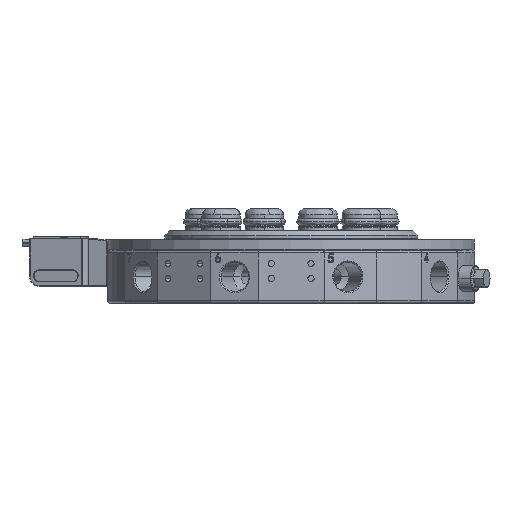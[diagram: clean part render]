
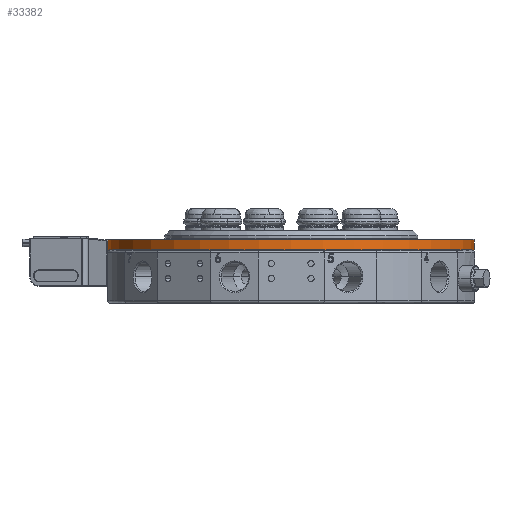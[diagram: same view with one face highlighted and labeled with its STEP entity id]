
A CAD part, front view. The second image highlights one B-rep face of the part: STEP entity #33382.
In plain terms, the highlighted cylindrical face has radius 73.75 mm (diameter 147.5 mm), a partial arc.
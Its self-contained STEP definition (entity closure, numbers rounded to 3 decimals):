
#3747 = VECTOR ( 'NONE', #53662, 1000. ) ;
#5182 = VERTEX_POINT ( 'NONE', #51203 ) ;
#7692 = ORIENTED_EDGE ( 'NONE', *, *, #21052, .F. ) ;
#10154 = DIRECTION ( 'NONE',  ( 0., 0., 1. ) ) ;
#13369 = CIRCLE ( 'NONE', #52826, 73.75 ) ;
#14578 = VERTEX_POINT ( 'NONE', #72520 ) ;
#16147 = EDGE_CURVE ( 'NONE', #5182, #56900, #53538, .T. ) ;
#16248 = CARTESIAN_POINT ( 'NONE',  ( 0., 0., -23.279 ) ) ;
#16438 = ORIENTED_EDGE ( 'NONE', *, *, #25953, .T. ) ;
#17507 = EDGE_CURVE ( 'NONE', #56821, #40912, #13369, .T. ) ;
#19688 = ORIENTED_EDGE ( 'NONE', *, *, #16147, .T. ) ;
#21052 = EDGE_CURVE ( 'NONE', #56821, #14578, #55917, .T. ) ;
#22142 = DIRECTION ( 'NONE',  ( 0., 0., 1. ) ) ;
#22819 = DIRECTION ( 'NONE',  ( -0.988, 0.156, 0. ) ) ;
#24784 = CARTESIAN_POINT ( 'NONE',  ( -73.75, 0., -27.279 ) ) ;
#25953 = EDGE_CURVE ( 'NONE', #40912, #5182, #50348, .T. ) ;
#26200 = AXIS2_PLACEMENT_3D ( 'NONE', #46276, #72332, #26913 ) ;
#26913 = DIRECTION ( 'NONE',  ( 1., 0., 0. ) ) ;
#27587 = CIRCLE ( 'NONE', #55474, 73.75 ) ;
#27717 = CARTESIAN_POINT ( 'NONE',  ( -73.75, 0., -27.579 ) ) ;
#31333 = AXIS2_PLACEMENT_3D ( 'NONE', #49297, #10154, #55853 ) ;
#33382 = ADVANCED_FACE ( 'NONE', ( #55898 ), #53902, .T. ) ;
#35513 = CARTESIAN_POINT ( 'NONE',  ( 0., 0., -27.279 ) ) ;
#36401 = ORIENTED_EDGE ( 'NONE', *, *, #17507, .T. ) ;
#40563 = ORIENTED_EDGE ( 'NONE', *, *, #82505, .F. ) ;
#40912 = VERTEX_POINT ( 'NONE', #71230 ) ;
#42050 = DIRECTION ( 'NONE',  ( 1., 0., 0. ) ) ;
#46276 = CARTESIAN_POINT ( 'NONE',  ( 0., 0., -27.579 ) ) ;
#49297 = CARTESIAN_POINT ( 'NONE',  ( 0., 0., -27.279 ) ) ;
#50348 = CIRCLE ( 'NONE', #31333, 73.75 ) ;
#51203 = CARTESIAN_POINT ( 'NONE',  ( 73.75, 0., -27.279 ) ) ;
#51275 = CARTESIAN_POINT ( 'NONE',  ( 73.75, 0., -23.279 ) ) ;
#52826 = AXIS2_PLACEMENT_3D ( 'NONE', #35513, #81242, #42050 ) ;
#53538 = LINE ( 'NONE', #56290, #68914 ) ;
#53662 = DIRECTION ( 'NONE',  ( 0., 0., 1. ) ) ;
#53902 = CYLINDRICAL_SURFACE ( 'NONE', #26200, 73.75 ) ;
#55474 = AXIS2_PLACEMENT_3D ( 'NONE', #16248, #61940, #22819 ) ;
#55853 = DIRECTION ( 'NONE',  ( 1., 0., 0. ) ) ;
#55898 = FACE_OUTER_BOUND ( 'NONE', #73331, .T. ) ;
#55917 = LINE ( 'NONE', #27717, #3747 ) ;
#56290 = CARTESIAN_POINT ( 'NONE',  ( 73.75, 0., -27.579 ) ) ;
#56821 = VERTEX_POINT ( 'NONE', #24784 ) ;
#56900 = VERTEX_POINT ( 'NONE', #51275 ) ;
#61940 = DIRECTION ( 'NONE',  ( 0., 0., 1. ) ) ;
#68914 = VECTOR ( 'NONE', #22142, 1000. ) ;
#71230 = CARTESIAN_POINT ( 'NONE',  ( 0., -73.75, -27.279 ) ) ;
#72332 = DIRECTION ( 'NONE',  ( 0., 0., 1. ) ) ;
#72520 = CARTESIAN_POINT ( 'NONE',  ( -73.75, 0., -23.279 ) ) ;
#73331 = EDGE_LOOP ( 'NONE', ( #7692, #36401, #16438, #19688, #40563 ) ) ;
#81242 = DIRECTION ( 'NONE',  ( 0., 0., 1. ) ) ;
#82505 = EDGE_CURVE ( 'NONE', #14578, #56900, #27587, .T. ) ;
